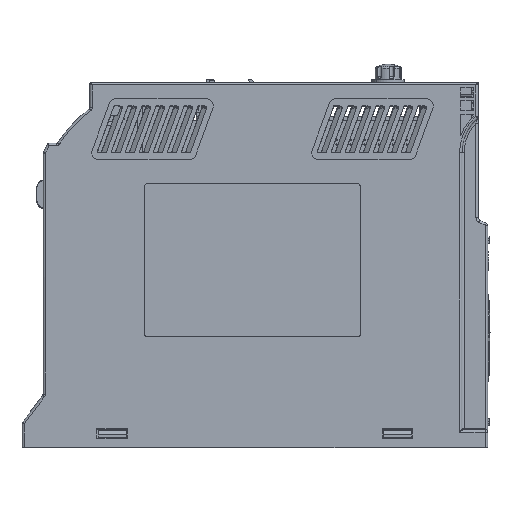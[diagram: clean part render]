
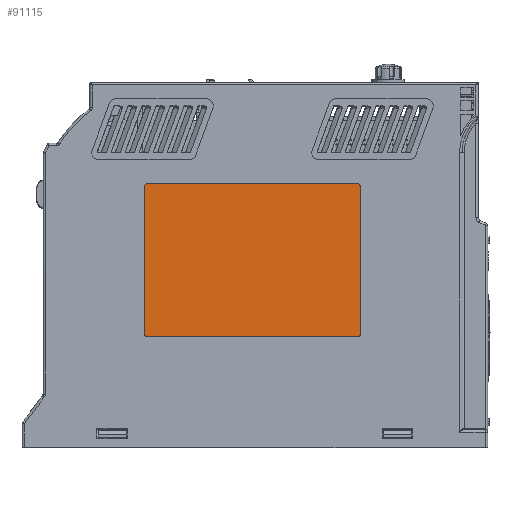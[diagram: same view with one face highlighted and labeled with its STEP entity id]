
A CAD part, top view. The second image highlights one B-rep face of the part: STEP entity #91115.
In plain terms, the highlighted planar face has unit normal (0, 0, 1).
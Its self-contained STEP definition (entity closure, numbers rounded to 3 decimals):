
#1030 = EDGE_LOOP ( 'NONE', ( #174328, #57613, #32934, #144776, #53058, #17772, #76330, #84040 ) ) ;
#1364 = EDGE_CURVE ( 'NONE', #128993, #21401, #95669, .T. ) ;
#7464 = DIRECTION ( 'NONE',  ( 1., 0., 0. ) ) ;
#10167 = DIRECTION ( 'NONE',  ( -1., 0., 0. ) ) ;
#11757 = LINE ( 'NONE', #38078, #170694 ) ;
#12547 = CIRCLE ( 'NONE', #181040, 1. ) ;
#17459 = CARTESIAN_POINT ( 'NONE',  ( -74.807, 18.189, 170.16 ) ) ;
#17772 = ORIENTED_EDGE ( 'NONE', *, *, #75265, .T. ) ;
#19112 = AXIS2_PLACEMENT_3D ( 'NONE', #45747, #193435, #59419 ) ;
#20809 = CARTESIAN_POINT ( 'NONE',  ( 16.193, 17.189, 170.16 ) ) ;
#21401 = VERTEX_POINT ( 'NONE', #106535 ) ;
#29556 = VERTEX_POINT ( 'NONE', #35265 ) ;
#29900 = DIRECTION ( 'NONE',  ( -1., 0., 0. ) ) ;
#31115 = DIRECTION ( 'NONE',  ( 0., 0., 1. ) ) ;
#31852 = CARTESIAN_POINT ( 'NONE',  ( -74.807, 18.189, 170.16 ) ) ;
#32934 = ORIENTED_EDGE ( 'NONE', *, *, #146239, .T. ) ;
#34026 = VERTEX_POINT ( 'NONE', #106130 ) ;
#35265 = CARTESIAN_POINT ( 'NONE',  ( 16.193, -46.311, 170.16 ) ) ;
#37851 = CIRCLE ( 'NONE', #140357, 1. ) ;
#38078 = CARTESIAN_POINT ( 'NONE',  ( -75.807, -46.311, 170.16 ) ) ;
#39668 = AXIS2_PLACEMENT_3D ( 'NONE', #180537, #182448, #74021 ) ;
#45747 = CARTESIAN_POINT ( 'NONE',  ( -74.807, 17.189, 170.16 ) ) ;
#47995 = VERTEX_POINT ( 'NONE', #130200 ) ;
#50417 = VERTEX_POINT ( 'NONE', #126528 ) ;
#53058 = ORIENTED_EDGE ( 'NONE', *, *, #173687, .T. ) ;
#56287 = DIRECTION ( 'NONE',  ( 0., 1., 0. ) ) ;
#57613 = ORIENTED_EDGE ( 'NONE', *, *, #126697, .T. ) ;
#59419 = DIRECTION ( 'NONE',  ( -1., 0., 0. ) ) ;
#66692 = VERTEX_POINT ( 'NONE', #17459 ) ;
#70678 = CARTESIAN_POINT ( 'NONE',  ( -74.807, 17.189, 170.16 ) ) ;
#74021 = DIRECTION ( 'NONE',  ( -1., 0., 0. ) ) ;
#75265 = EDGE_CURVE ( 'NONE', #29556, #128993, #190290, .T. ) ;
#76330 = ORIENTED_EDGE ( 'NONE', *, *, #1364, .T. ) ;
#84040 = ORIENTED_EDGE ( 'NONE', *, *, #187399, .T. ) ;
#84623 = CARTESIAN_POINT ( 'NONE',  ( 15.193, -46.311, 170.16 ) ) ;
#87369 = VECTOR ( 'NONE', #56287, 1000. ) ;
#90729 = DIRECTION ( 'NONE',  ( 1., 0., 0. ) ) ;
#91115 = ADVANCED_FACE ( 'NONE', ( #152820 ), #95095, .F. ) ;
#95095 = PLANE ( 'NONE',  #111343 ) ;
#95669 = CIRCLE ( 'NONE', #39668, 1. ) ;
#96324 = DIRECTION ( 'NONE',  ( 0., 0., 1. ) ) ;
#104071 = LINE ( 'NONE', #31852, #122894 ) ;
#105345 = CARTESIAN_POINT ( 'NONE',  ( -74.807, -47.311, 170.16 ) ) ;
#106130 = CARTESIAN_POINT ( 'NONE',  ( 15.193, -47.311, 170.16 ) ) ;
#106535 = CARTESIAN_POINT ( 'NONE',  ( 15.193, 18.189, 170.16 ) ) ;
#107283 = LINE ( 'NONE', #105345, #189566 ) ;
#111343 = AXIS2_PLACEMENT_3D ( 'NONE', #70678, #114562, #10167 ) ;
#114562 = DIRECTION ( 'NONE',  ( 0., 0., -1. ) ) ;
#122894 = VECTOR ( 'NONE', #29900, 1000. ) ;
#126528 = CARTESIAN_POINT ( 'NONE',  ( -74.807, -47.311, 170.16 ) ) ;
#126697 = EDGE_CURVE ( 'NONE', #179385, #47995, #11757, .T. ) ;
#128993 = VERTEX_POINT ( 'NONE', #20809 ) ;
#130200 = CARTESIAN_POINT ( 'NONE',  ( -75.807, -46.311, 170.16 ) ) ;
#140357 = AXIS2_PLACEMENT_3D ( 'NONE', #84623, #96324, #7464 ) ;
#144776 = ORIENTED_EDGE ( 'NONE', *, *, #184184, .T. ) ;
#146239 = EDGE_CURVE ( 'NONE', #47995, #50417, #12547, .T. ) ;
#147379 = CARTESIAN_POINT ( 'NONE',  ( -75.807, 17.189, 170.16 ) ) ;
#152820 = FACE_OUTER_BOUND ( 'NONE', #1030, .T. ) ;
#165846 = CIRCLE ( 'NONE', #19112, 1. ) ;
#166974 = DIRECTION ( 'NONE',  ( -1., 0., 0. ) ) ;
#167904 = CARTESIAN_POINT ( 'NONE',  ( -74.807, -46.311, 170.16 ) ) ;
#170694 = VECTOR ( 'NONE', #175894, 1000. ) ;
#173687 = EDGE_CURVE ( 'NONE', #34026, #29556, #37851, .T. ) ;
#174328 = ORIENTED_EDGE ( 'NONE', *, *, #187159, .T. ) ;
#175894 = DIRECTION ( 'NONE',  ( 0., -1., 0. ) ) ;
#179385 = VERTEX_POINT ( 'NONE', #147379 ) ;
#180537 = CARTESIAN_POINT ( 'NONE',  ( 15.193, 17.189, 170.16 ) ) ;
#181040 = AXIS2_PLACEMENT_3D ( 'NONE', #167904, #31115, #166974 ) ;
#182448 = DIRECTION ( 'NONE',  ( 0., 0., 1. ) ) ;
#184184 = EDGE_CURVE ( 'NONE', #50417, #34026, #107283, .T. ) ;
#187159 = EDGE_CURVE ( 'NONE', #66692, #179385, #165846, .T. ) ;
#187399 = EDGE_CURVE ( 'NONE', #21401, #66692, #104071, .T. ) ;
#189566 = VECTOR ( 'NONE', #90729, 1000. ) ;
#190290 = LINE ( 'NONE', #191257, #87369 ) ;
#191257 = CARTESIAN_POINT ( 'NONE',  ( 16.193, -46.311, 170.16 ) ) ;
#193435 = DIRECTION ( 'NONE',  ( 0., 0., 1. ) ) ;
